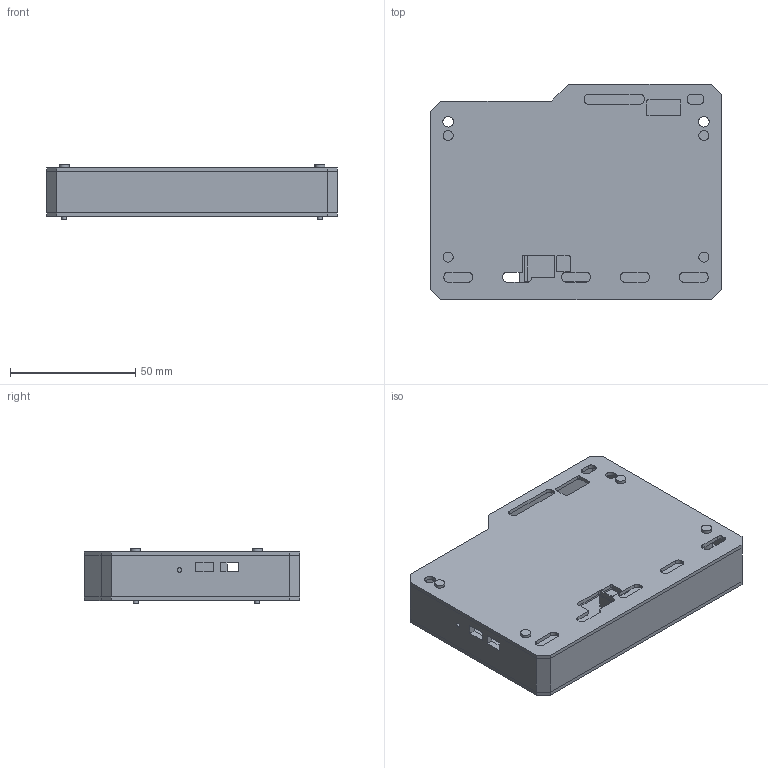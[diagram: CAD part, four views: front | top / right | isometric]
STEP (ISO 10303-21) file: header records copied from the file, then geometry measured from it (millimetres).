
FILE_DESCRIPTION(('Open CASCADE Model'),'2;1');
FILE_NAME('Layered clear enclosure','2026-11-18T13:29:48',('Author'),( 'Open CASCADE'),'Open CASCADE STEP processor 7.8','build123d', 'Unknown');
FILE_SCHEMA(('AUTOMOTIVE_DESIGN { 1 0 10303 214 1 1 1 1 }'));
Length unit declared in the file: millimetre
Products named in the file (18): Layered clear enclosure; Display support H1; Display support H2; Display support H3; Display support H4; Sensor light barrier; Stepped perimeter frame; Clear front plate; SOLID; Clear rear plate; Battery locating rails; M2 fastener H1; M2 fastener H2; M2 fastener H3; M2 fastener H4
Assembly tree (17 placements, depth 3):
  Layered clear enclosure
    Display support H1
    Display support H2
    Display support H3
    Display support H4
    Sensor light barrier
    Stepped perimeter frame
    Clear front plate
      SOLID
    Clear rear plate
      SOLID
    Battery locating rails
      SOLID
      SOLID
    M2 fastener H1
    M2 fastener H2
    M2 fastener H3
    M2 fastener H4
Bounding box: 116 x 86 x 21.7 mm (x, y, z)
Volume: 43815.6 mm3; surface area: 56187.5 mm2
Topology: 14 solids, 14 shells, 290 faces, 768 edges, 512 vertices
Faces by surface type: plane 198, cylinder 92
Full cylindrical faces by diameter (mm): 1.8 x1, 2 x4, 2.4 x16, 4 x4, 4.2 x4, 4.5 x4
Entity records: 19450 total; most frequent: CARTESIAN_POINT 3960, DIRECTION 2720, LINE 1604, VECTOR 1604, ORIENTED_EDGE 1536, PCURVE 1536, DEFINITIONAL_REPRESENTATION 1536, EDGE_CURVE 768
